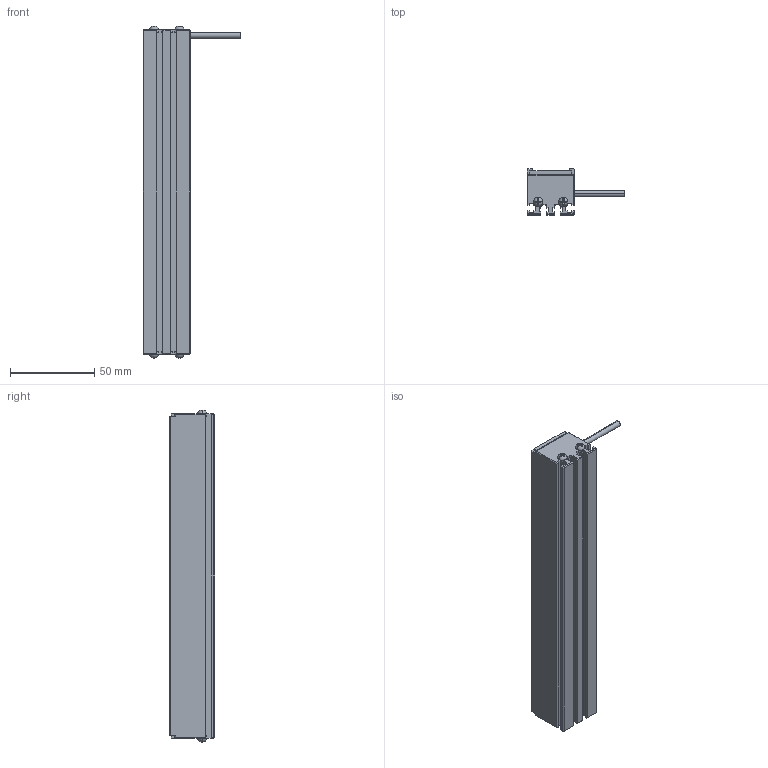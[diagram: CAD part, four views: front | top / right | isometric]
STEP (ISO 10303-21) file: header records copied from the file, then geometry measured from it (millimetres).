
FILE_DESCRIPTION((''),'2;1');
FILE_NAME('MV-LLDS-192-28_ASM','2020-12-29T',('Administrator'),(''),'PRO/ENGINEER BY PARAMETRIC TECHNOLOGY CORPORATION, 2010100','PRO/ENGINEER BY PARAMETRIC TECHNOLOGY CORPORATION, 2010100','');
FILE_SCHEMA(('CONFIG_CONTROL_DESIGN'));
Length unit declared in the file: millimetre
Products named in the file (3): BL-4_2_; M3-5_3; MV-LLDS-192-28_ASM
Assembly tree (5 placements, depth 2):
  MV-LLDS-192-28_ASM
    BL-4_2_
    M3-5_3  x4
Bounding box: 58 x 27 x 196.68 mm (x, y, z)
Volume: 120465.2 mm3; surface area: 46663.6 mm2
Topology: 5 solids, 13 shells, 303 faces, 802 edges, 516 vertices
Faces by surface type: plane 185, cylinder 70, cone 16, bspline 16, torus 8, sphere 8
Entity records: 6737 total; most frequent: CARTESIAN_POINT 1451, ORIENTED_EDGE 1074, DIRECTION 1068, EDGE_CURVE 547, VECTOR 396, LINE 396, VERTEX_POINT 357, AXIS2_PLACEMENT_3D 336
